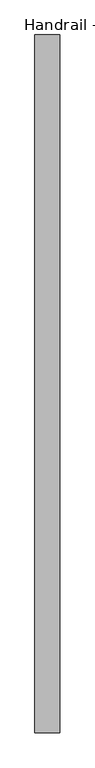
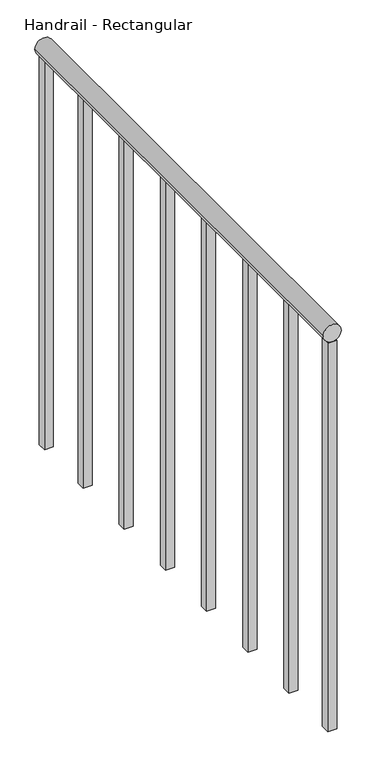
"""IFC4 building model written with IfcOpenShell, lengths in millimetres: railing geometry, Handrail - Rectangular."""

from ifc_helpers import new_model, si_unit, point, frame, frame_2d, origin, place, context, project, spatial, polyline, circle_curve, trimmed, segment, composite_curve, outline, extrude, source, transform, mapped, element, save


def handrail_rectangular_4bc45e69(model_context):
    return source(origin(), model_context, "Body", "SweptSolid", [
        extrude(outline(composite_curve([segment(trimmed(circle_curve(frame_2d((10039.35, 2297.1410437)), 19.05), [point((10039.35, 2316.1910437))], [point((10039.35, 2278.0910437))], False, "CARTESIAN"), True, "CONTINUOUS"), segment(trimmed(circle_curve(frame_2d((10039.35, 2297.1410437)), 19.05), [point((10039.35, 2278.0910437))], [point((10039.35, 2316.1910437))], False, "CARTESIAN"), True, "CONTINUOUS")], self_intersect=False)), frame((0.0, 6864.8316867, 0.0), z_axis=(0.0, 1.0, 0.0), x_axis=(0.0, 0.0, 1.0)), (0.0, 0.0, 1.0), 1066.8),
        extrude(outline(polyline([(2287.6160437, 7026.7566867), (2306.6660437, 7026.7566867), (2306.6660437, 7007.7066867), (2287.6160437, 7007.7066867), (2287.6160437, 7026.7566867)])), frame((0.0, 0.0, 9144.0), z_axis=(0.0, 0.0, 1.0), x_axis=(1.0, 0.0, 0.0)), (0.0, 0.0, 1.0), 876.3),
        extrude(outline(polyline([(2287.6160437, 7179.1566867), (2306.6660437, 7179.1566867), (2306.6660437, 7160.1066867), (2287.6160437, 7160.1066867), (2287.6160437, 7179.1566867)])), frame((0.0, 0.0, 9144.0), z_axis=(0.0, 0.0, 1.0), x_axis=(1.0, 0.0, 0.0)), (0.0, 0.0, 1.0), 876.3),
        extrude(outline(polyline([(2287.6160437, 7331.5566867), (2306.6660437, 7331.5566867), (2306.6660437, 7312.5066867), (2287.6160437, 7312.5066867), (2287.6160437, 7331.5566867)])), frame((0.0, 0.0, 9144.0), z_axis=(0.0, 0.0, 1.0), x_axis=(1.0, 0.0, 0.0)), (0.0, 0.0, 1.0), 876.3),
        extrude(outline(polyline([(2287.6160437, 7483.9566867), (2306.6660437, 7483.9566867), (2306.6660437, 7464.9066867), (2287.6160437, 7464.9066867), (2287.6160437, 7483.9566867)])), frame((0.0, 0.0, 9144.0), z_axis=(0.0, 0.0, 1.0), x_axis=(1.0, 0.0, 0.0)), (0.0, 0.0, 1.0), 876.3),
        extrude(outline(polyline([(2287.6160437, 7636.3566867), (2306.6660437, 7636.3566867), (2306.6660437, 7617.3066867), (2287.6160437, 7617.3066867), (2287.6160437, 7636.3566867)])), frame((0.0, 0.0, 9144.0), z_axis=(0.0, 0.0, 1.0), x_axis=(1.0, 0.0, 0.0)), (0.0, 0.0, 1.0), 876.3),
        extrude(outline(polyline([(2287.6160437, 7788.7566867), (2306.6660437, 7788.7566867), (2306.6660437, 7769.7066867), (2287.6160437, 7769.7066867), (2287.6160437, 7788.7566867)])), frame((0.0, 0.0, 9144.0), z_axis=(0.0, 0.0, 1.0), x_axis=(1.0, 0.0, 0.0)), (0.0, 0.0, 1.0), 876.3),
        extrude(outline(polyline([(2287.6160437, 6883.8816867), (2306.6660437, 6883.8816867), (2306.6660437, 6864.8316867), (2287.6160437, 6864.8316867), (2287.6160437, 6883.8816867)])), frame((0.0, 0.0, 9144.0), z_axis=(0.0, 0.0, 1.0), x_axis=(1.0, 0.0, 0.0)), (0.0, 0.0, 1.0), 876.3),
        extrude(outline(polyline([(2287.6160437, 7931.6316867), (2306.6660437, 7931.6316867), (2306.6660437, 7912.5816867), (2287.6160437, 7912.5816867), (2287.6160437, 7931.6316867)])), frame((0.0, 0.0, 9144.0), z_axis=(0.0, 0.0, 1.0), x_axis=(1.0, 0.0, 0.0)), (0.0, 0.0, 1.0), 876.3),
    ])


if __name__ == "__main__":
    model = new_model("IFC4")
    model_context = context("Model", 3, world=origin())
    ifc_project = project(units=[si_unit("LENGTHUNIT", "METRE", prefix="MILLI")], contexts=[model_context])
    site = spatial("IfcSite", under=ifc_project)
    building = spatial("IfcBuilding", under=site)
    placement = place(None, origin())
    handrail_rectangular_shape = handrail_rectangular_4bc45e69(model_context)
    element("IfcRailing", 1, ObjectType="Handrail - Rectangular", at=placement, inside=building, context=model_context, shape_type="MappedRepresentation", body=[
        mapped(handrail_rectangular_shape, transform((0.0, 0.0, 0.0), x_axis=(1.0, 0.0, 0.0), y_axis=(0.0, 1.0, 0.0), z_axis=(0.0, 0.0, 1.0))),
    ])
    save(model, "model.ifc")
